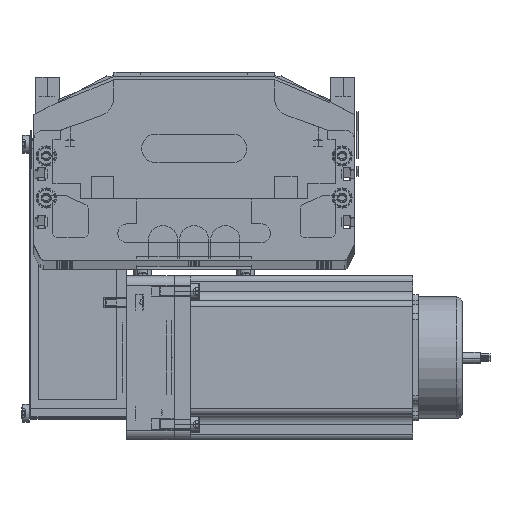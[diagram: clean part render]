
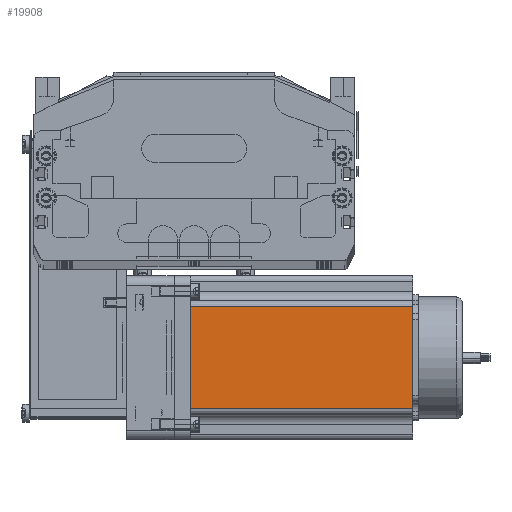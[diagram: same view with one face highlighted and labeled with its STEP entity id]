
A CAD part, top view. The second image highlights one B-rep face of the part: STEP entity #19908.
In plain terms, the highlighted planar face has unit normal (0, 0, 1) as drawn and (0, -1, 0) by its records, which use the part's own axes.
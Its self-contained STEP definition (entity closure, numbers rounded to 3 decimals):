
#19779 = VERTEX_POINT ( 'NONE', #46942 ) ;
#19781 = VERTEX_POINT ( 'NONE', #46960 ) ;
#19792 = EDGE_LOOP ( 'NONE', ( #19929, #19915, #19919, #19912 ) ) ;
#19808 = EDGE_CURVE ( 'NONE', #19779, #19781, #47082, .T. ) ;
#19908 = ADVANCED_FACE ( 'NONE', ( #47509 ), #47439, .F. ) ;
#19910 = EDGE_CURVE ( 'NONE', #19781, #19914, #47469, .T. ) ;
#19912 = ORIENTED_EDGE ( 'NONE', *, *, #19921, .T. ) ;
#19914 = VERTEX_POINT ( 'NONE', #47546 ) ;
#19915 = ORIENTED_EDGE ( 'NONE', *, *, #19910, .T. ) ;
#19917 = EDGE_CURVE ( 'NONE', #19925, #19914, #47640, .T. ) ;
#19919 = ORIENTED_EDGE ( 'NONE', *, *, #19917, .F. ) ;
#19921 = EDGE_CURVE ( 'NONE', #19925, #19779, #47630, .T. ) ;
#19925 = VERTEX_POINT ( 'NONE', #47609 ) ;
#19929 = ORIENTED_EDGE ( 'NONE', *, *, #19808, .T. ) ;
#46942 = CARTESIAN_POINT ( 'NONE',  ( 16.16, 0., 0. ) ) ;
#46960 = CARTESIAN_POINT ( 'NONE',  ( 69.74, 0., 0. ) ) ;
#47079 = DIRECTION ( 'NONE',  ( 1., 0., 0. ) ) ;
#47080 = VECTOR ( 'NONE', #47079, 1000. ) ;
#47081 = CARTESIAN_POINT ( 'NONE',  ( 0., 0., 0. ) ) ;
#47082 = LINE ( 'NONE', #47081, #47080 ) ;
#47439 = PLANE ( 'NONE',  #47576 ) ;
#47469 = LINE ( 'NONE', #47570, #47569 ) ;
#47509 = FACE_OUTER_BOUND ( 'NONE', #19792, .T. ) ;
#47546 = CARTESIAN_POINT ( 'NONE',  ( 69.74, 0., 116.5 ) ) ;
#47550 = DIRECTION ( 'NONE',  ( 0., 0., 1. ) ) ;
#47569 = VECTOR ( 'NONE', #47550, 1000. ) ;
#47570 = CARTESIAN_POINT ( 'NONE',  ( 69.74, 0., 116.5 ) ) ;
#47571 = DIRECTION ( 'NONE',  ( 0., 0., 1. ) ) ;
#47573 = DIRECTION ( 'NONE',  ( 0., 1., 0. ) ) ;
#47574 = CARTESIAN_POINT ( 'NONE',  ( 0., 0., 116.5 ) ) ;
#47576 = AXIS2_PLACEMENT_3D ( 'NONE', #47574, #47573, #47571 ) ;
#47609 = CARTESIAN_POINT ( 'NONE',  ( 16.16, 0., 116.5 ) ) ;
#47613 = DIRECTION ( 'NONE',  ( 0., 0., -1. ) ) ;
#47615 = VECTOR ( 'NONE', #47613, 1000. ) ;
#47622 = DIRECTION ( 'NONE',  ( 1., 0., 0. ) ) ;
#47623 = VECTOR ( 'NONE', #47622, 1000. ) ;
#47624 = CARTESIAN_POINT ( 'NONE',  ( 0., 0., 116.5 ) ) ;
#47628 = CARTESIAN_POINT ( 'NONE',  ( 16.16, 0., 116.5 ) ) ;
#47630 = LINE ( 'NONE', #47628, #47615 ) ;
#47640 = LINE ( 'NONE', #47624, #47623 ) ;
